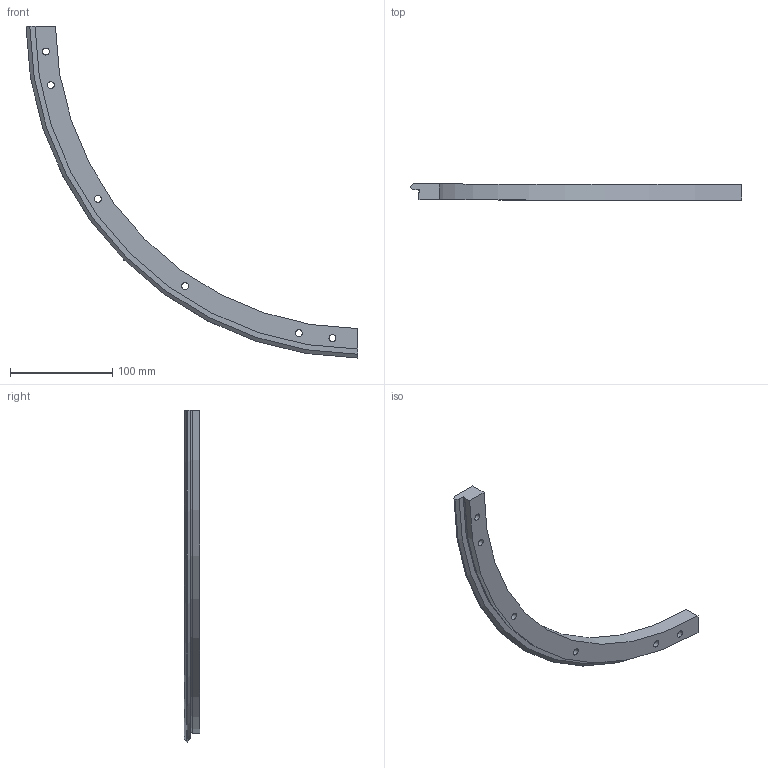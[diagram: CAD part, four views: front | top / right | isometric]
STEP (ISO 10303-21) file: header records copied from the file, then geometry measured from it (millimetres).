
FILE_DESCRIPTION( ( 'STEP AP203' ), '1' );
FILE_NAME( 'p:/temp/worker_25/temp/exporttempdir_3792_435_MNU6y/format_0/TREM 655 R90 .stp', '2021-09-17T07:50:31', ( 'License CC BY-ND 4.0' ), ( 'CADENAS' ), ' ', 'PARTsolutions', ' ' );
FILE_SCHEMA( ( 'CONFIG_CONTROL_DESIGN' ) );
Length unit declared in the file: millimetre
Products named in the file (1): _TREM 655 R90  
Bounding box: 325.04 x 15.5 x 325.04 mm (x, y, z)
Volume: 164102.3 mm3; surface area: 44464.7 mm2
Topology: 1 solids, 1 shells, 30 faces, 66 edges, 44 vertices
Faces by surface type: cylinder 15, plane 12, cone 2, torus 1
Full cylindrical faces by diameter (mm): 6.8 x6, 11 x6
Entity records: 870 total; most frequent: CARTESIAN_POINT 159, DIRECTION 144, ORIENTED_EDGE 108, AXIS2_PLACEMENT_3D 65, EDGE_LOOP 60, EDGE_CURVE 54, VERTEX_POINT 44, FACE_OUTER_BOUND 42
